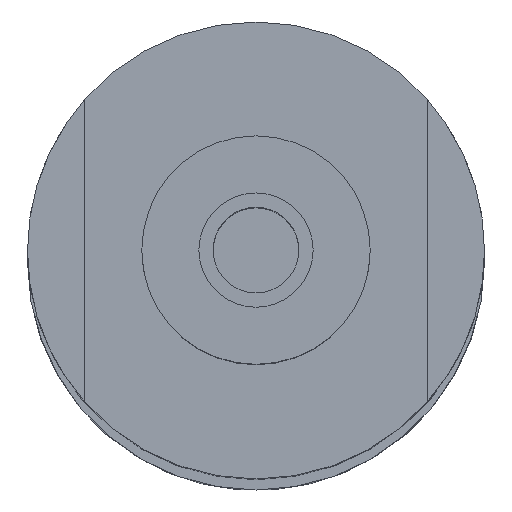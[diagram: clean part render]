
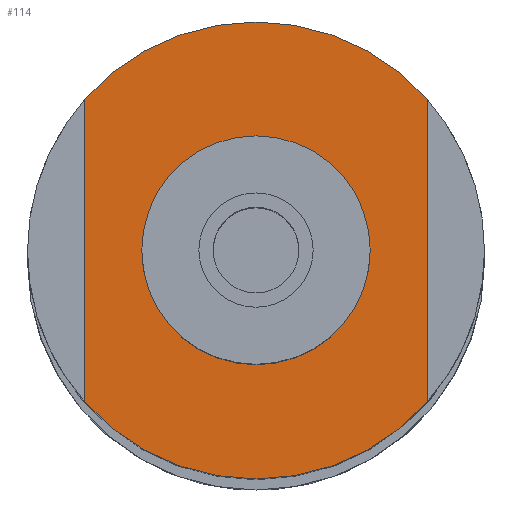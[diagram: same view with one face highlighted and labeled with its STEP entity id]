
A CAD part, top view. The second image highlights one B-rep face of the part: STEP entity #114.
In plain terms, the highlighted planar face has unit normal (0, 0, 1).
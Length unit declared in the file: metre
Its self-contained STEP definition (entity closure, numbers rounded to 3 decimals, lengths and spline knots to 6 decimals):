
#114=ADVANCED_FACE('24:1171',(#229,#230),#231,.T.);
#229=FACE_BOUND('',#350,.T.);
#230=FACE_OUTER_BOUND('',#351,.T.);
#231=PLANE('',#352);
#350=EDGE_LOOP('',(#584,#585));
#351=EDGE_LOOP('',(#586,#587,#588,#589));
#352=AXIS2_PLACEMENT_3D('',#590,#591,#592);
#584=ORIENTED_EDGE('',*,*,#668,.F.);
#585=ORIENTED_EDGE('',*,*,#750,.F.);
#586=ORIENTED_EDGE('',*,*,#736,.F.);
#587=ORIENTED_EDGE('',*,*,#680,.F.);
#588=ORIENTED_EDGE('',*,*,#742,.T.);
#589=ORIENTED_EDGE('',*,*,#745,.F.);
#590=CARTESIAN_POINT('',(0.,0.,0.45));
#591=DIRECTION('',(0.0,0.0,1.0));
#592=DIRECTION('',(1.0,0.0,0.0));
#668=EDGE_CURVE('24:490',#783,#779,#785,.T.);
#680=EDGE_CURVE('24:1187',#805,#807,#808,.F.);
#736=EDGE_CURVE('24:2122',#807,#889,#890,.T.);
#742=EDGE_CURVE('24:2109',#805,#897,#899,.T.);
#745=EDGE_CURVE('24:1196',#889,#897,#902,.F.);
#750=EDGE_CURVE('',#779,#783,#907,.T.);
#779=VERTEX_POINT('',#948);
#783=VERTEX_POINT('',#953);
#785=CIRCLE('',#956,0.004);
#805=VERTEX_POINT('',#980);
#807=VERTEX_POINT('',#983);
#808=CIRCLE('',#984,0.008);
#889=VERTEX_POINT('',#1082);
#890=LINE('',#1083,#1084);
#897=VERTEX_POINT('',#1094);
#899=LINE('',#1097,#1098);
#902=CIRCLE('',#1101,0.008);
#907=CIRCLE('',#1106,0.004);
#948=CARTESIAN_POINT('',(-0.00411,0.000133,0.45));
#953=CARTESIAN_POINT('',(0.00389,0.000133,0.45));
#956=AXIS2_PLACEMENT_3D('',#1154,#1155,#1156);
#980=CARTESIAN_POINT('',(-0.00611,0.005425,0.45));
#983=CARTESIAN_POINT('',(0.00589,0.005425,0.45));
#984=AXIS2_PLACEMENT_3D('',#1174,#1175,#1176);
#1082=CARTESIAN_POINT('',(0.00589,-0.005158,0.45));
#1083=CARTESIAN_POINT('',(0.00589,0.008133,0.45));
#1084=VECTOR('',#1257,1.0);
#1094=CARTESIAN_POINT('',(-0.00611,-0.005158,0.45));
#1097=CARTESIAN_POINT('',(-0.00611,0.008133,0.45));
#1098=VECTOR('',#1262,1.0);
#1101=AXIS2_PLACEMENT_3D('',#1266,#1267,#1268);
#1106=AXIS2_PLACEMENT_3D('',#1275,#1276,#1277);
#1154=CARTESIAN_POINT('',(-0.00011,0.000133,0.45));
#1155=DIRECTION('',(0.0,0.0,1.0));
#1156=DIRECTION('',(1.0,0.0,-0.0));
#1174=CARTESIAN_POINT('',(-0.00011,0.000133,0.45));
#1175=DIRECTION('',(0.0,0.0,1.0));
#1176=DIRECTION('',(1.0,0.0,0.0));
#1257=DIRECTION('',(0.,-1.0,0.0));
#1262=DIRECTION('',(0.,-1.0,0.0));
#1266=CARTESIAN_POINT('',(-0.00011,0.000133,0.45));
#1267=DIRECTION('',(0.0,0.0,1.0));
#1268=DIRECTION('',(1.0,0.0,0.0));
#1275=CARTESIAN_POINT('',(-0.00011,0.000133,0.45));
#1276=DIRECTION('',(0.0,0.0,1.0));
#1277=DIRECTION('',(1.0,0.0,-0.0));
